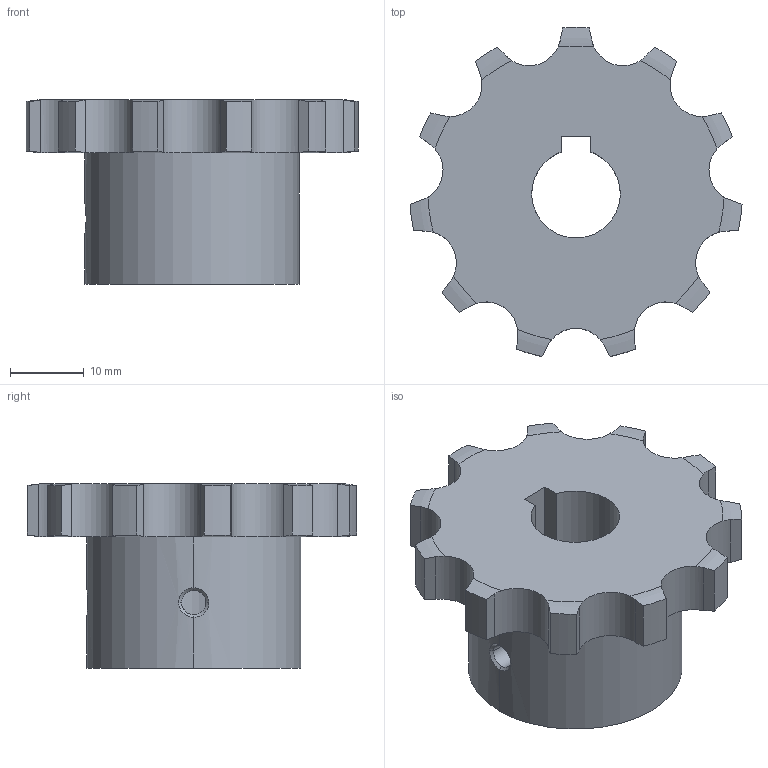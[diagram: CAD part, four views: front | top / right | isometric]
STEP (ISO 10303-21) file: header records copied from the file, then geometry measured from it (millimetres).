
FILE_DESCRIPTION((''),'2;1');
FILE_NAME('510-201-1211_PRT','2021-02-13T',('Brieden'),('Brieden'),'PRO/ENGINEER BY PARAMETRIC TECHNOLOGY CORPORATION, 2010160','PRO/ENGINEER BY PARAMETRIC TECHNOLOGY CORPORATION, 2010160','');
FILE_SCHEMA(('AUTOMOTIVE_DESIGN { 1 0 10303 214 1 1 1 1 }'));
Length unit declared in the file: millimetre
Products named in the file (1): 510-201-1211_PRT
Bounding box: 44.98 x 44.58 x 25 mm (x, y, z)
Volume: 17847.6 mm3; surface area: 6386.6 mm2
Topology: 1 solids, 1 shells, 85 faces, 243 edges, 160 vertices
Faces by surface type: cylinder 51, torus 22, plane 6, bspline 6
Entity records: 4226 total; most frequent: CARTESIAN_POINT 1345, ORIENTED_EDGE 486, DIRECTION 373, PRESENTATION_STYLE_ASSIGNMENT 244, STYLED_ITEM 244, CURVE_STYLE 243, EDGE_CURVE 243, VERTEX_POINT 160
